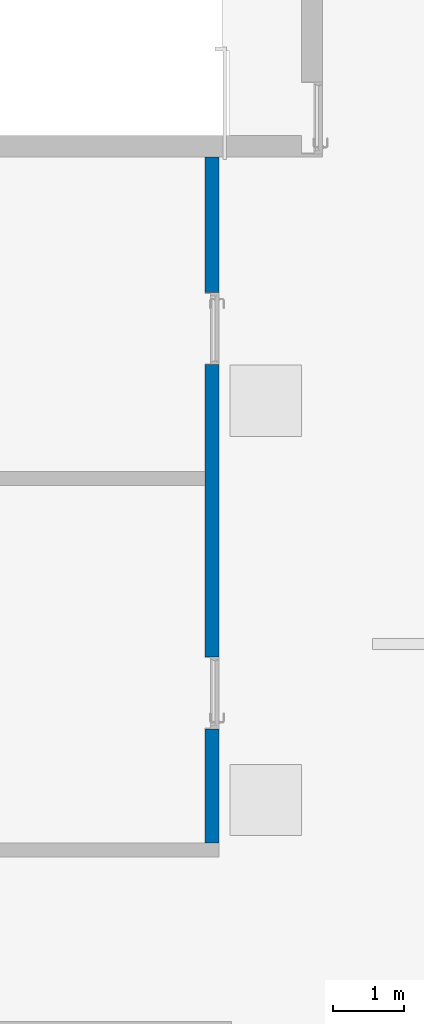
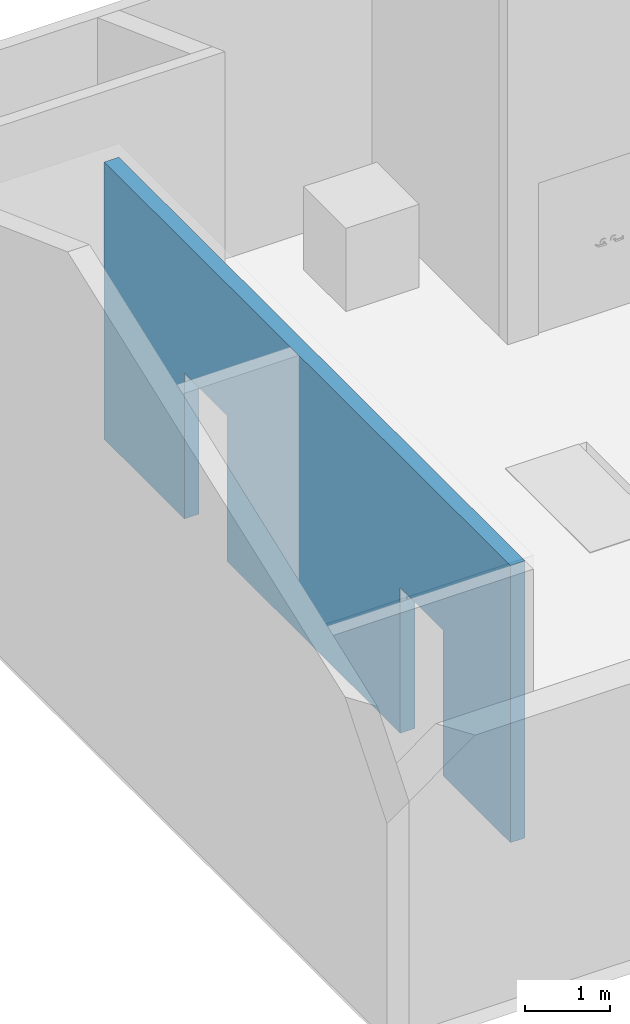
# One storey, part 4 of 23: 1 wall, 2 openings.
"""IFC2X3 building model written with IfcOpenShell, lengths in millimetres."""

from ifc_helpers import new_model, entity, si_unit, converted_unit, direction, frame, frame_2d, origin, place, context, subcontext, project, spatial, rectangle, extrude, material, layer, layer_set, layer_usage, type_object, element, save


model = new_model("IFC2X3")

# Units and contexts
model_context = context("Model", 3, precision=0.01, world=origin(), true_north=direction((6.123031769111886e-17, 1.0)))
body_context = subcontext(model_context, "Body", "Model", "MODEL_VIEW")
ifc_project = project(units=[si_unit("LENGTHUNIT", "METRE", prefix="MILLI"), converted_unit("PLANEANGLEUNIT", "DEGREE", entity("IfcPlaneAngleMeasure", 0.017453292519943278), si_unit("PLANEANGLEUNIT", "RADIAN"), dimensions=[0, 0, 0, 0, 0, 0, 0]), si_unit("AREAUNIT", "SQUARE_METRE")], contexts=[model_context])

# Site, building, storey
site_placement = place(None, frame((7776.576483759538, 118.3519876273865, 0.0)))
site = spatial("IfcSite", under=ifc_project, at=site_placement, Name="Default", CompositionType="ELEMENT")
building_placement = place(site_placement, origin())
building = spatial("IfcBuilding", under=site, at=building_placement, Name="Bygning (endres i Project Information)", CompositionType="ELEMENT")
storey_placement = place(building_placement, frame((0.0, 0.0, 19000.0)))
storey = spatial("IfcBuildingStorey", under=building, at=storey_placement, Name="Plan 01", CompositionType="ELEMENT", Elevation=19000.0)

# Wall, openings
ifc_material = material(Name="Default Wall")
ifc_layer = layer(ifc_material, 200.0)
ifc_layer_set = layer_set([ifc_layer], Name="Basic Wall:Generic - 200mm")
ifc_layer_usage = layer_usage(ifc_layer_set, "AXIS2", "NEGATIVE", 100.0)
wall_type = type_object("IfcWallType", Name="Basic Wall:Generic - 200mm", PredefinedType="STANDARD", material=ifc_layer_set)
wall_placement = place(storey_placement, frame((16274.001374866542, 22197.757305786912, 0.0), z_axis=(0.0, 0.0, 1.0), x_axis=(0.0, 1.0, 0.0)))
wall = element("IfcWallStandardCase", 1, at=wall_placement, inside=storey, type_object=wall_type, material=ifc_layer_usage, Name="Basic Wall:Generic - 200mm", ObjectType="Basic Wall:Generic - 200mm", context=body_context, shape_type="SweptSolid", body=[
    extrude(rectangle(XDim=9599.999999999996, YDim=200.0, at=frame_2d((4799.999999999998, -8.668621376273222e-13), x_axis=(1.0, 0.0))), origin(), (0.0, 0.0, 1.0), 4000.0000000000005),
])
opening_1_placement = place(wall_placement, frame((2605.0, 100.0, 0.0)))
element("IfcOpeningElement", 2, at=opening_1_placement, cuts=wall, Name="Single Door Simple:986 x 2089 mm - M10 x M21:1", ObjectType="Opening", context=body_context, shape_type="SweptSolid", body=[
    extrude(rectangle(XDim=2100.9999999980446, YDim=1009.9999999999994, at=frame_2d((1050.4999999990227, 505.0000000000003), x_axis=(1.0, 0.0))), frame((0.0, 0.0, 0.0), z_axis=(0.0, -1.0, 0.0), x_axis=(0.0, 0.0, 1.0)), (0.0, 0.0, 1.0), 200.0),
])
opening_2_placement = place(wall_placement, frame((7705.0, 100.0, 0.0)))
element("IfcOpeningElement", 3, at=opening_2_placement, cuts=wall, Name="Single Door Simple:986 x 2089 mm - M10 x M21:1", ObjectType="Opening", context=body_context, shape_type="SweptSolid", body=[
    extrude(rectangle(XDim=2100.9999999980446, YDim=1009.9999999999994, at=frame_2d((1050.4999999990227, 504.9999999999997), x_axis=(1.0, 0.0))), frame((0.0, 0.0, 0.0), z_axis=(0.0, -1.0, 0.0), x_axis=(0.0, 0.0, 1.0)), (0.0, 0.0, 1.0), 200.0),
])

save(model, "model.ifc")
